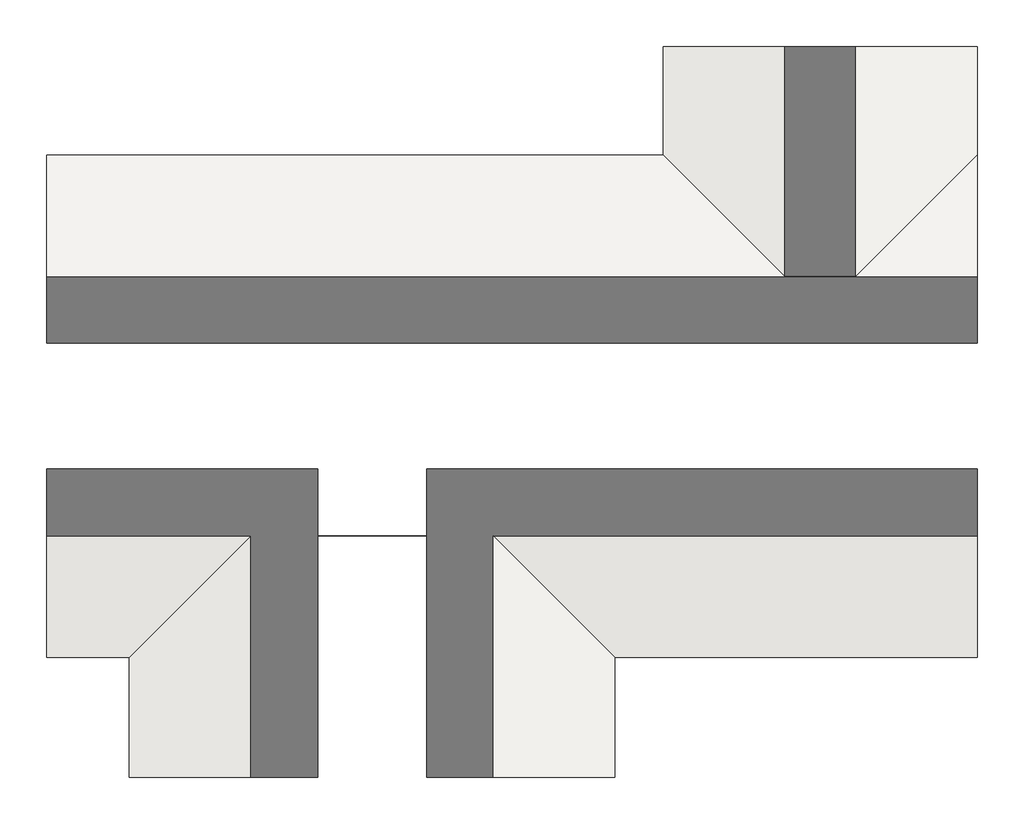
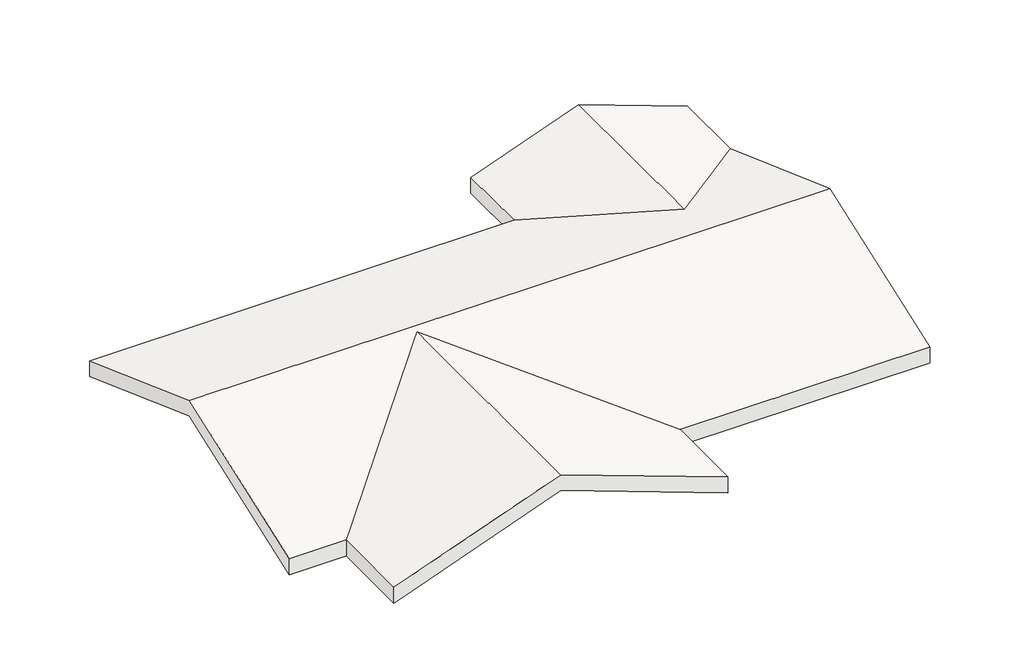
# One storey: 1 roof.
"""IFC4 building model written with IfcOpenShell, lengths in millimetres."""

import ifcopenshell
import ifcopenshell.guid

model = None  # the IFC model being written
_history = None  # IfcOwnerHistory: only IFC2X3 demands one
_inside = {}  # id of a spatial element -> (the spatial element, [elements in it])
_under = {}  # id of a project, library or spatial element -> (it, [spatial elements below it])
_declared = {}  # id of a project -> (the project, [libraries it declares])
_typed = {}  # id of a type object -> (the type object, [elements of that type])
_made_of = {}  # id of a material, layer set ... -> (it, [elements and type objects made of it])


def new_model(schema):
    """Start an empty IFC model of exactly this schema.

    Asked for "IFC4X3", IfcOpenShell would pick the latest addendum, in which some entities
    have other attributes; the version numbers below select the first issue.
    IFC2X3 requires an IfcOwnerHistory on every rooted entity: one is made here for all.
    """
    global model, _history
    if schema == "IFC4X3":
        model = ifcopenshell.file(schema_version=(4, 3, 0, 0))
    else:
        model = ifcopenshell.file(schema=schema)
    _inside.clear()
    _under.clear()
    _declared.clear()
    _typed.clear()
    _made_of.clear()
    _history = None
    if model.schema == "IFC2X3":
        org = make("IfcOrganization", Name="unknown")
        user = make(
            "IfcPersonAndOrganization",
            ThePerson=make("IfcPerson", FamilyName="unknown"),
            TheOrganization=org,
        )
        app = make(
            "IfcApplication",
            ApplicationDeveloper=org,
            Version="unknown",
            ApplicationFullName="unknown",
            ApplicationIdentifier="unknown",
        )
        _history = make(
            "IfcOwnerHistory",
            OwningUser=user,
            OwningApplication=app,
            ChangeAction="ADDED",
            CreationDate=0,
        )
    return model


def make(cls, **values):
    """One entity of the class cls with the attributes given. An attribute that is None is left unset."""
    return model.create_entity(
        cls, **{name: value for name, value in values.items() if value is not None}
    )


def rooted(cls, **values):
    """An entity with a GlobalId (a new one), such as an element, a storey or a relation."""
    return make(cls, GlobalId=ifcopenshell.guid.new(), OwnerHistory=_history, **values)


def si_unit(unit_type, name, prefix=None):
    """IfcSIUnit, for example si_unit("LENGTHUNIT", "METRE", prefix="MILLI")."""
    return make("IfcSIUnit", UnitType=unit_type, Prefix=prefix, Name=name)


def assignment(units):
    """IfcUnitAssignment: the units of a project."""
    return None if units is None else make("IfcUnitAssignment", Units=units)


def point(xyz):
    """IfcCartesianPoint."""
    return None if xyz is None else make("IfcCartesianPoint", Coordinates=xyz)


def direction(xyz):
    """IfcDirection."""
    return None if xyz is None else make("IfcDirection", DirectionRatios=xyz)


def frame(location, z_axis=None, x_axis=None):
    """IfcAxis2Placement3D, a coordinate frame: its origin and axes. An axis left out is left unset."""
    return make(
        "IfcAxis2Placement3D",
        Location=point(location),
        Axis=direction(z_axis),
        RefDirection=direction(x_axis),
    )


def origin():
    """The frame at (0, 0, 0) with its axes left unset."""
    return frame((0.0, 0.0, 0.0))


def place(relative_to, where):
    """IfcLocalPlacement: puts the frame where relative to a parent placement (None: the world)."""
    return make(
        "IfcLocalPlacement", PlacementRelTo=relative_to, RelativePlacement=where
    )


def context(
    kind, dimensions, precision=None, world=None, true_north=None, identifier=None
):
    """IfcGeometricRepresentationContext, for example the 3D "Model" context."""
    return make(
        "IfcGeometricRepresentationContext",
        ContextIdentifier=identifier,
        ContextType=kind,
        CoordinateSpaceDimension=dimensions,
        Precision=precision,
        WorldCoordinateSystem=world,
        TrueNorth=true_north,
    )


def project(units=None, contexts=None):
    """IfcProject with its units and contexts."""
    return rooted(
        "IfcProject",
        Name="project",
        RepresentationContexts=contexts,
        UnitsInContext=assignment(units),
    )


def spatial(cls, under=None, at=None, **own):
    """A site, building, storey or space (cls), placed at a placement, below another one or the project."""
    s = rooted(cls, ObjectPlacement=at, **own)
    if under is not None:
        _under.setdefault(under.id(), (under, []))[1].append(s)
    return s


def faces_of(points, faces, orient=None, outer=None):
    """IfcFace entities. A face is a list of loops; a loop is a list of indices into points, from 0.

    orient and outer hold one flag for each loop. By default every Orientation is true, the
    first loop of a face is its IfcFaceOuterBound and the others are IfcFaceBound.
    """
    made = []
    for i, loops in enumerate(faces):
        bounds = []
        for j, loop in enumerate(loops):
            is_outer = j == 0 if outer is None else outer[i][j]
            bounds.append(
                make(
                    "IfcFaceOuterBound" if is_outer else "IfcFaceBound",
                    Bound=make("IfcPolyLoop", Polygon=[points[k] for k in loop]),
                    Orientation=True if orient is None else orient[i][j],
                )
            )
        made.append(make("IfcFace", Bounds=bounds))
    return made


def faceted_brep(points, faces, orient=None, outer=None, voids=None):
    """IfcFacetedBrep: a solid bounded by flat faces; with voids (closed shells), ...WithVoids."""
    shared = [point(p) for p in points]
    hull = make("IfcClosedShell", CfsFaces=faces_of(shared, faces, orient, outer))
    if voids is None:
        return make("IfcFacetedBrep", Outer=hull)
    return make(
        "IfcFacetedBrepWithVoids",
        Outer=hull,
        Voids=[
            make(cls, CfsFaces=faces_of(shared, fs, o, b)) for cls, fs, o, b in voids
        ],
    )


def shape(context_of_items, identifier, shape_type, items):
    """IfcShapeRepresentation: the items that make up one representation, for example the "Body"."""
    return make(
        "IfcShapeRepresentation",
        ContextOfItems=context_of_items,
        RepresentationIdentifier=identifier,
        RepresentationType=shape_type,
        Items=items,
    )


def made_of(thing, what):
    """Note that an element or type object is made of a material, layer set ...; save() writes the relation."""
    if what is not None:
        _made_of.setdefault(what.id(), (what, []))[1].append(thing)
    return thing


def element(
    cls,
    number,
    at=None,
    inside=None,
    cuts=None,
    type_object=None,
    material=None,
    context=None,
    identifier="Body",
    shape_type=None,
    held_by="IfcProductDefinitionShape",
    body=None,
    shapes=None,
    **own,
):
    """One element of the class cls, such as IfcWall. Its Tag is "e" and its number.

    at: its placement. inside: the storey or other place that contains it. cuts: it is an
    opening in that element (IfcRelVoidsElement). A single representation is given by context,
    identifier, shape_type and body (its items); several are given by shapes. held_by: the class
    of the entity that holds the representations. save() writes the other relations.
    """
    e = rooted(cls, Tag="e%d" % number, ObjectPlacement=at, **own)
    if body is not None:
        shapes = [shape(context, identifier, shape_type, body)]
    if shapes is not None:
        e.Representation = make(held_by, Representations=shapes)
    if inside is not None:
        _inside.setdefault(inside.id(), (inside, []))[1].append(e)
    if cuts is not None:
        rooted(
            "IfcRelVoidsElement", RelatingBuildingElement=cuts, RelatedOpeningElement=e
        )
    if type_object is not None:
        _typed.setdefault(type_object.id(), (type_object, []))[1].append(e)
    return made_of(e, material)


def aggregate(whole, parts):
    """IfcRelAggregates: a whole, such as a stair, and the parts it consists of."""
    return rooted("IfcRelAggregates", RelatingObject=whole, RelatedObjects=parts)


def save(model, path):
    """Write the relations noted so far, then the file.

    IfcRelAggregates (storeys below a building ...), IfcRelContainedInSpatialStructure (elements
    in a storey), IfcRelDefinesByType, IfcRelAssociatesMaterial and IfcRelDeclares: one each for
    every whole, place, type object, material and project.
    """
    for whole, parts in _under.values():
        aggregate(whole, parts)
    for where, things in _inside.values():
        rooted(
            "IfcRelContainedInSpatialStructure",
            RelatedElements=things,
            RelatingStructure=where,
        )
    for kind, things in _typed.values():
        rooted("IfcRelDefinesByType", RelatedObjects=things, RelatingType=kind)
    for what, things in _made_of.values():
        rooted("IfcRelAssociatesMaterial", RelatedObjects=things, RelatingMaterial=what)
    for by, libraries in _declared.values():
        rooted("IfcRelDeclares", RelatingContext=by, RelatedDefinitions=libraries)
    model.write(path)


model = new_model("IFC4")

# Units and contexts
model_context = context("Model", 3, world=origin())
ifc_project = project(units=[si_unit("LENGTHUNIT", "METRE", prefix="MILLI")], contexts=[model_context])

# Site, building, storey
site = spatial("IfcSite", under=ifc_project)
building = spatial("IfcBuilding", under=site)
storey = spatial("IfcBuildingStorey", under=building, Name="标高 2", Elevation=4000.0)

# Roof
placement = place(None, origin())
element("IfcRoof", 1, ObjectType="常规 - 400mm", at=placement, inside=storey, context=model_context, shape_type="Brep", body=[
    faceted_brep([(-9112.9782175, -77.8760061, 5601.4690308), (-9112.9782175, 4322.1239939, 4000.0), (1687.0217825, 4322.1239939, 4000.0), (4437.0217825, 1572.1239939, 5000.9181442), (7187.0217825, 4322.1239939, 4000.0), (7187.0217825, -77.8760061, 5601.4690308), (-9112.9782175, -4477.8760061, 4000.0), (7187.0217825, -4477.8760061, 4000.0), (837.0217825, -4477.8760061, 4000.0), (-3412.9782175, -227.8760061, 5546.8734956), (-7662.9782175, -4477.8760061, 4000.0), (-9112.9782175, 4322.1239939, 4425.671109), (-9112.9782175, -77.8760061, 6027.1401398), (7187.0217825, -77.8760061, 6027.1401398), (7187.0217825, 4322.1239939, 4425.671109), (4437.0217825, 1572.1239939, 5426.5892532), (1687.0217825, 4322.1239939, 4425.671109), (-9112.9782175, -4477.8760061, 4425.671109), (-7662.9782175, -4477.8760061, 4425.671109), (-3412.9782175, -227.8760061, 5972.5446046), (837.0217825, -4477.8760061, 4425.671109), (7187.0217825, -4477.8760061, 4425.671109), (7187.0217825, 6222.1239939, 4000.0), (4437.0217825, 6222.1239939, 5000.9181442), (1687.0217825, 6222.1239939, 4000.0), (-7662.9782175, -6577.8760061, 4000.0), (-3412.9782175, -6577.8760061, 5546.8734956), (837.0217825, -6577.8760061, 4000.0), (7187.0217825, 6222.1239939, 4425.671109), (4437.0217825, 6222.1239939, 5426.5892532), (1687.0217825, 6222.1239939, 4425.671109), (-7662.9782175, -6577.8760061, 4425.671109), (-3412.9782175, -6577.8760061, 5972.5446046), (837.0217825, -6577.8760061, 4425.671109)], [[[0, 1, 2, 3, 4, 5]], [[6, 0, 5, 7, 8, 9, 10]], [[11, 12, 13, 14, 15, 16]], [[17, 18, 19, 20, 21, 13, 12]], [[7, 21, 20, 8]], [[1, 11, 16, 2]], [[17, 12, 11, 1, 0, 6]], [[14, 13, 21, 7, 5, 4]], [[22, 4, 3, 23]], [[24, 23, 3, 2]], [[25, 10, 9, 26]], [[27, 26, 9, 8]], [[14, 28, 29, 15]], [[30, 16, 15, 29]], [[18, 31, 32, 19]], [[33, 20, 19, 32]], [[10, 18, 17, 6]], [[25, 31, 18, 10]], [[8, 20, 33, 27]], [[22, 28, 14, 4]], [[2, 16, 30, 24]], [[30, 29, 28, 22, 23, 24]], [[33, 32, 31, 25, 26, 27]]]),
])

save(model, "model.ifc")
